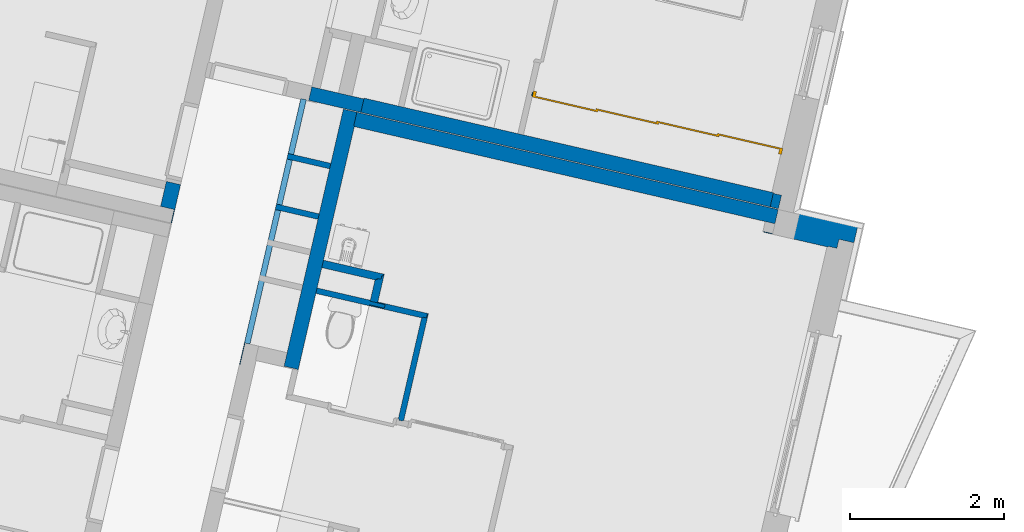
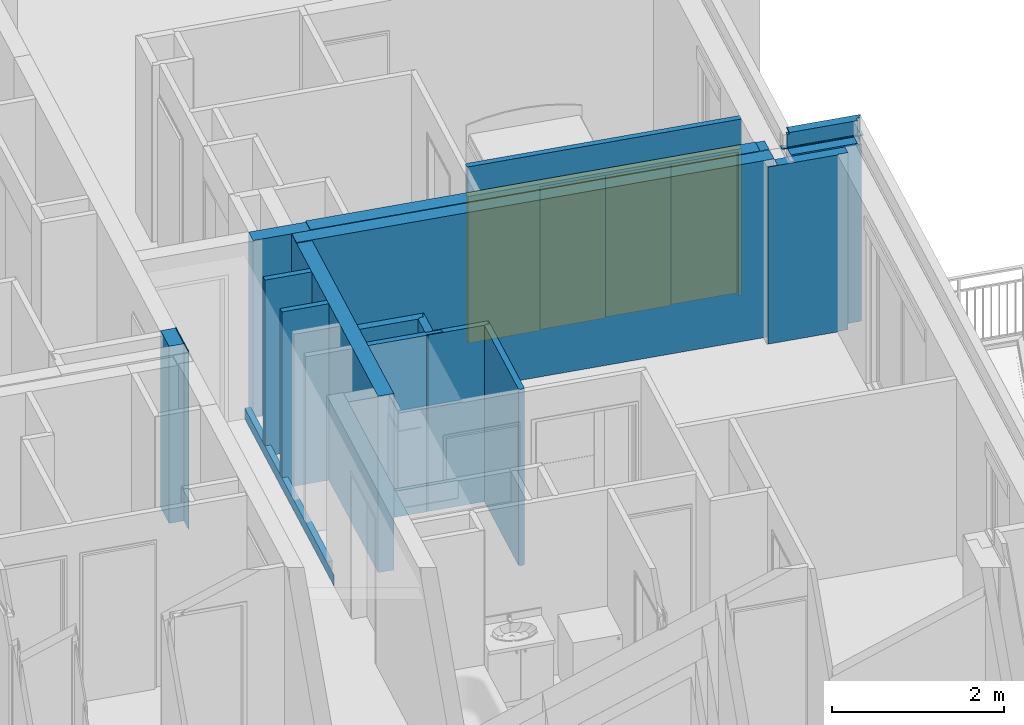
# One storey, part 29 of 62: 16 walls, 1 door, 1 opening.
"""IFC2X3 building model written with IfcOpenShell, lengths in metres."""

from ifc_helpers import new_model, entity, si_unit, converted_unit, derived_unit, money_unit, direction, frame, origin_with_axes, place, context, subcontext, project, spatial, faceted_brep, material, material_list, type_object, element, fill, save


model = new_model("IFC2X3")

# Units and contexts
model_context = context("Model", 3, precision=1e-05, world=origin_with_axes(), true_north=direction((0.0, 1.0)))
body_context = subcontext(model_context, "Body", "Model", "MODEL_VIEW")
ifc_project = project(units=[si_unit("LENGTHUNIT", "METRE"), si_unit("AREAUNIT", "SQUARE_METRE"), si_unit("VOLUMEUNIT", "CUBIC_METRE"), converted_unit("PLANEANGLEUNIT", "DEGREE", entity("IfcPlaneAngleMeasure", 0.0174532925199), si_unit("PLANEANGLEUNIT", "RADIAN"), dimensions=[0, 0, 0, 0, 0, 0, 0]), si_unit("SOLIDANGLEUNIT", "STERADIAN"), money_unit("EUR"), converted_unit("TIMEUNIT", "Year", entity("IfcTimeMeasure", 31556926.0), si_unit("TIMEUNIT", "SECOND"), dimensions=[0, 0, 1, 0, 0, 0, 0]), si_unit("MASSUNIT", "GRAM", prefix="KILO"), si_unit("THERMODYNAMICTEMPERATUREUNIT", "DEGREE_CELSIUS"), si_unit("LUMINOUSINTENSITYUNIT", "LUMEN"), si_unit("ENERGYUNIT", "JOULE", prefix="MEGA"), derived_unit("THERMALCONDUCTANCEUNIT", [(si_unit("POWERUNIT", "WATT"), 1), (si_unit("LENGTHUNIT", "METRE"), -1), (si_unit("THERMODYNAMICTEMPERATUREUNIT", "KELVIN"), -1)]), derived_unit("SPECIFICHEATCAPACITYUNIT", [(si_unit("ENERGYUNIT", "JOULE"), 1), (si_unit("MASSUNIT", "GRAM", prefix="KILO"), -1), (si_unit("THERMODYNAMICTEMPERATUREUNIT", "KELVIN"), -1)]), derived_unit("MASSDENSITYUNIT", [(si_unit("MASSUNIT", "GRAM", prefix="KILO"), 1), (si_unit("VOLUMEUNIT", "CUBIC_METRE"), -1)])], contexts=[model_context])

# Site, building, storey
site_placement = place(None, origin_with_axes())
site = spatial("IfcSite", under=ifc_project, at=site_placement, Name="Site", CompositionType="ELEMENT")
building_placement = place(site_placement, origin_with_axes())
building = spatial("IfcBuilding", under=site, at=building_placement, Name="Bâtiment", CompositionType="ELEMENT")
storey_placement = place(building_placement, frame((0.0, 0.0, 8.16), z_axis=(0.0, 0.0, 1.0), x_axis=(1.0, 0.0, 0.0)))
storey = spatial("IfcBuildingStorey", under=building, at=storey_placement, Name="R+3", CompositionType="ELEMENT", Elevation=8.16)

# Walls
ifc_material_1 = material(Name="Cloison - Carreaux de plâtre")
wall_type_1 = type_object("IfcWallType", Name="Cloison - Carreaux de plâtre 74", PredefinedType="USERDEFINED")
wall_1_placement = place(storey_placement, frame((-9.20392746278, 0.883172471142, 0.0), z_axis=(0.0, 0.0, 1.0), x_axis=(0.224876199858, 0.974387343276, 0.0)))
element("IfcWall", 1, at=wall_1_placement, inside=storey, type_object=wall_type_1, material=ifc_material_1, Name="Carreaux de plâtre 8cm", ObjectType="PARTITIONING", context=body_context, shape_type="Brep", body=[
    faceted_brep([(3.25805722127, 0.0, 0.15), (-0.29, 0.0, 0.15), (-0.29, -0.0100000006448, 0.15), (0.0, -0.0100000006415, 0.15), (0.0, -0.074, 0.15), (3.25805722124, -0.074, 0.15), (3.25805722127, 0.0, 0.0), (-0.29, 0.0, 0.0), (-0.29, -0.0100000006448, 0.0), (0.0, -0.0100000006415, 0.0), (0.0, -0.074, 0.0), (3.25805722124, -0.074, 0.0)], [[[0, 1, 2, 3, 4, 5]], [[0, 6, 7, 1]], [[1, 7, 8, 2]], [[8, 9, 3, 2]], [[3, 9, 10, 4]], [[11, 5, 4, 10]], [[5, 11, 6, 0]], [[11, 10, 9, 8, 7, 6]]]),
])
wall_2_placement = place(storey_placement, frame((-8.78745674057, 2.6877378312, 0.0), z_axis=(0.0, 0.0, 1.0), x_axis=(0.974387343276, -0.224876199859, 0.0)))
element("IfcWall", 2, at=wall_2_placement, inside=storey, type_object=wall_type_1, material=ifc_material_1, Name="Carreaux de plâtre 8cm", ObjectType="PARTITIONING", context=body_context, shape_type="Brep", body=[
    faceted_brep([(0.570000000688, 0.0, 0.0), (0.0739999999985, 0.0, 0.0), (0.0739999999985, 0.0, 0.15), (0.0, 0.0, 0.15), (0.0, 0.0, 2.5), (0.570000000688, 0.0, 2.5), (0.570000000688, -0.074, 0.0), (0.0739999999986, -0.074, 0.0), (0.0739999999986, -0.074, 0.15), (0.0, -0.074, 0.15), (0.0, -0.074, 2.5), (0.570000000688, -0.074, 2.5)], [[[0, 1, 2, 3, 4, 5]], [[0, 6, 7, 1]], [[7, 8, 2, 1]], [[8, 9, 3, 2]], [[10, 4, 3, 9]], [[10, 11, 5, 4]], [[11, 6, 0, 5]], [[10, 9, 8, 7, 6, 11]]]),
])
wall_3_placement = place(storey_placement, frame((-8.63589018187, 3.34447490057, 0.0), z_axis=(0.0, 0.0, 1.0), x_axis=(0.974387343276, -0.224876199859, 0.0)))
element("IfcWall", 3, at=wall_3_placement, inside=storey, type_object=wall_type_1, material=ifc_material_1, Name="Carreaux de plâtre 8cm", ObjectType="PARTITIONING", context=body_context, shape_type="Brep", body=[
    faceted_brep([(0.570000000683, 0.0, 0.0), (0.0739999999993, 0.0, 0.0), (0.0739999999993, 0.0, 0.15), (0.0, 0.0, 0.15), (0.0, 0.0, 2.5), (0.570000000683, 0.0, 2.5), (0.570000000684, -0.074, 0.0), (0.0739999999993, -0.074, 0.0), (0.0739999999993, -0.074, 0.15), (0.0, -0.074, 0.15), (0.0, -0.074, 2.5), (0.570000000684, -0.074, 2.5)], [[[0, 1, 2, 3, 4, 5]], [[0, 6, 7, 1]], [[7, 8, 2, 1]], [[8, 9, 3, 2]], [[10, 4, 3, 9]], [[10, 11, 5, 4]], [[11, 6, 0, 5]], [[10, 9, 8, 7, 6, 11]]]),
])
ifc_material_2 = material(Name="Finition int - Plaque de plâtre")
ifc_material_3 = material(Name="Isolation - Laine de roche")
ifc_material_list_1 = material_list([ifc_material_2, ifc_material_3, ifc_material_2])
wall_type_2 = type_object("IfcWallType", Name="3 - Cloison 72mm Placostil 74", PredefinedType="USERDEFINED")
wall_4_placement = place(storey_placement, frame((-6.81321467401, 1.26329398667, 0.0), z_axis=(0.0, 0.0, 1.0), x_axis=(-0.974387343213, 0.224876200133, 0.0)))
element("IfcWall", 4, at=wall_4_placement, inside=storey, type_object=wall_type_2, material=ifc_material_list_1, Name="Cloison Placostil 72/48", ObjectType="PARTITIONING", context=body_context, shape_type="Brep", body=[
    faceted_brep([(0.0609999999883, 0.074, 0.0), (0.760999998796, 0.074, 0.0), (0.760999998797, 0.061, 0.0), (0.0609999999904, 0.061, 0.0), (0.0609999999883, 0.074, 2.5), (0.760999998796, 0.074, 2.5), (0.760999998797, 0.061, 2.5), (0.0609999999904, 0.061, 2.5)], [[[0, 1, 2, 3]], [[4, 5, 1, 0]], [[6, 2, 1, 5]], [[3, 2, 6, 7]], [[7, 4, 0, 3]], [[7, 6, 5, 4]]]),
    faceted_brep([(0.012999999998, 0.013, 0.0), (0.573999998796, 0.013, 0.0), (0.573999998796, 0.013, 2.5), (0.012999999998, 0.013, 2.5), (0.0129999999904, 0.061, 0.0), (0.573999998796, 0.061, 0.0), (0.573999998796, 0.061, 2.5), (0.0129999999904, 0.061, 2.5)], [[[0, 1, 2, 3]], [[4, 5, 1, 0]], [[5, 6, 2, 1]], [[3, 2, 6, 7]], [[3, 7, 4, 0]], [[7, 6, 5, 4]]]),
    faceted_brep([(0.0, 0.013, 0.0), (0.686999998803, 0.013, 0.0), (0.686999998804, 0.0, 0.0), (0.0, 0.0, 0.0), (0.0, 0.013, 2.5), (0.686999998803, 0.013, 2.5), (0.686999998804, 0.0, 2.5), (0.0, 0.0, 2.5)], [[[0, 1, 2, 3]], [[4, 5, 1, 0]], [[6, 2, 1, 5]], [[3, 2, 6, 7]], [[7, 4, 0, 3]], [[7, 6, 5, 4]]]),
])

# Wall, opening, door
wall_5_placement = place(storey_placement, frame((-5.44874829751, 4.15046327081, 0.0), z_axis=(0.0, 0.0, 1.0), x_axis=(0.97438734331, -0.224876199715, 0.0)))
wall_5 = element("IfcWall", 5, at=wall_5_placement, inside=storey, type_object=wall_type_2, material=ifc_material_list_1, Name="Cloison Placostil 72/48", ObjectType="PARTITIONING", context=body_context, shape_type="Brep", body=[
    faceted_brep([(3.32492820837, -0.013, 2.08), (3.32492820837, 0.0, 2.08), (3.32492820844, 0.0, 2.5), (3.32492820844, -0.013, 2.5), (0.0, 0.0, 2.08), (0.0, -0.013, 2.08), (0.0, 0.0, 2.5), (0.0, -0.013, 2.5)], [[[0, 1, 2, 3]], [[4, 1, 0, 5]], [[1, 4, 6, 2]], [[3, 2, 6, 7]], [[5, 0, 3, 7]], [[4, 5, 7, 6]]]),
    faceted_brep([(3.32492820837, -0.061, 2.08), (3.32492820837, -0.013, 2.08), (3.32492820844, -0.013, 2.5), (3.32492820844, -0.061, 2.5), (0.0, -0.013, 2.08), (0.0, -0.061, 2.08), (0.0, -0.013, 0.0), (-0.0130000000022, -0.013, 0.0), (-0.0130000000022, -0.013, 2.5), (-0.0130000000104, -0.061, 2.5), (-0.0130000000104, -0.061, 0.0), (0.0, -0.061, 0.0)], [[[0, 1, 2, 3]], [[4, 1, 0, 5]], [[4, 6, 7, 8, 2, 1]], [[3, 2, 8, 9]], [[5, 0, 3, 9, 10, 11]], [[6, 4, 5, 11]], [[6, 11, 10, 7]], [[9, 8, 7, 10]]]),
    faceted_brep([(3.32492820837, -0.074, 2.08), (3.32492820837, -0.061, 2.08), (3.32492820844, -0.061, 2.5), (3.32492820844, -0.074, 2.5), (0.0, -0.061, 2.08), (0.0, -0.074, 2.08), (0.0, -0.061, 2.5), (0.0, -0.074, 2.5)], [[[0, 1, 2, 3]], [[4, 1, 0, 5]], [[1, 4, 6, 2]], [[3, 2, 6, 7]], [[5, 0, 3, 7]], [[4, 5, 7, 6]]]),
])
opening_placement = place(wall_5_placement, frame((1.66246410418, 0.0, 0.0), z_axis=(0.0, 0.0, 1.0), x_axis=(1.0, 0.0, 0.0)))
opening = element("IfcOpeningElement", 6, at=opening_placement, cuts=wall_5, Name="Por-002", context=body_context, shape_type="Brep", body=[
    faceted_brep([(-1.66246410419, 0.074, 0.0), (1.66246410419, 0.074, 0.0), (1.66246410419, -0.074, 0.0), (-1.66246410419, -0.074, 0.0), (-1.66246410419, 0.074, 2.08), (1.66246410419, 0.074, 2.08), (1.66246410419, -0.074, 2.08), (-1.66246410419, -0.074, 2.08)], [[[0, 1, 2, 3]], [[0, 4, 5, 1]], [[1, 5, 6, 2]], [[3, 2, 6, 7]], [[4, 0, 3, 7]], [[5, 4, 7, 6]]]),
])
door_style = type_object("IfcDoorStyle", Name="Porte int générique 2019", ConstructionType="NOTDEFINED", OperationType="USERDEFINED", ParameterTakesPrecedence=False, Sizeable=False)
door_placement = place(opening_placement, frame((1.62246410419, 0.0, 0.0), z_axis=(0.0, 0.0, 1.0), x_axis=(-1.0, 0.0, 0.0)))
door = element("IfcDoor", 7, at=door_placement, inside=storey, type_object=door_style, Name="Por-002", ObjectType="DOOR", OverallHeight=2.04, OverallWidth=3.24493, context=body_context, shape_type="Brep", body=[
    faceted_brep([(3.28492820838, 0.074, 0.0), (3.24492820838, 0.074, 0.0), (3.24492820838, 0.074, 2.04), (0.0, 0.074, 2.04), (0.0, 0.074, 0.0), (-0.04, 0.074, 0.0), (-0.04, 0.074, 2.08), (3.28492820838, 0.074, 2.08), (3.28492820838, -0.006, 0.0), (3.24492820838, -0.006, 0.0), (3.24492820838, -0.006, 2.04), (0.0, -0.006, 2.04), (0.0, -0.006, 0.0), (-0.04, -0.006, 0.0), (-0.04, -0.006, 2.08), (3.28492820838, -0.006, 2.08)], [[[0, 1, 2, 3, 4, 5, 6, 7]], [[0, 8, 9, 1]], [[1, 9, 10, 2]], [[2, 10, 11, 3]], [[3, 11, 12, 4]], [[5, 4, 12, 13]], [[14, 6, 5, 13]], [[15, 7, 6, 14]], [[8, 0, 7, 15]], [[9, 8, 15, 14, 13, 12, 11, 10]]]),
    faceted_brep([(3.24492820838, 0.074, 0.0), (3.24492820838, 0.054, 0.0), (2.41119615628, 0.054, 0.0), (2.41119615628, 0.074, 0.0), (3.24492820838, 0.074, 2.04), (3.24492820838, 0.054, 2.04), (2.41119615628, 0.054, 2.04), (2.41119615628, 0.074, 2.04)], [[[0, 1, 2, 3]], [[4, 5, 1, 0]], [[1, 5, 6, 2]], [[3, 2, 6, 7]], [[0, 3, 7, 4]], [[7, 6, 5, 4]]]),
    faceted_brep([(2.44119615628, 0.054, 0.0), (2.44119615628, 0.034, 0.0), (1.60746410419, 0.034, 0.0), (1.60746410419, 0.054, 0.0), (2.44119615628, 0.054, 2.04), (2.44119615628, 0.034, 2.04), (1.60746410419, 0.034, 2.04), (1.60746410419, 0.054, 2.04)], [[[0, 1, 2, 3]], [[4, 5, 1, 0]], [[1, 5, 6, 2]], [[3, 2, 6, 7]], [[0, 3, 7, 4]], [[7, 6, 5, 4]]]),
    faceted_brep([(1.63746410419, 0.034, 0.0), (1.63746410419, 0.014, 0.0), (0.803732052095, 0.014, 0.0), (0.803732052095, 0.034, 0.0), (1.63746410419, 0.034, 2.04), (1.63746410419, 0.014, 2.04), (0.803732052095, 0.014, 2.04), (0.803732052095, 0.034, 2.04)], [[[0, 1, 2, 3]], [[4, 5, 1, 0]], [[1, 5, 6, 2]], [[3, 2, 6, 7]], [[0, 3, 7, 4]], [[7, 6, 5, 4]]]),
    faceted_brep([(0.833732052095, 0.014, 0.0), (0.833732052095, -0.006, 0.0), (0.0, -0.006, 0.0), (0.0, 0.014, 0.0), (0.833732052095, 0.014, 2.04), (0.833732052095, -0.006, 2.04), (0.0, -0.006, 2.04), (0.0, 0.014, 2.04)], [[[0, 1, 2, 3]], [[4, 5, 1, 0]], [[1, 5, 6, 2]], [[3, 2, 6, 7]], [[0, 3, 7, 4]], [[7, 6, 5, 4]]]),
])
fill(opening, door)

# Walls
wall_6_placement = place(storey_placement, frame((-7.1500792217, -0.196338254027, 0.0), z_axis=(0.0, 0.0, 1.0), x_axis=(0.224876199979, 0.974387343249, 0.0)))
element("IfcWall", 8, at=wall_6_placement, inside=storey, type_object=wall_type_2, material=ifc_material_list_1, Name="Cloison Placostil 72/48", ObjectType="PARTITIONING", context=body_context, shape_type="Brep", body=[
    faceted_brep([(1.42400000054, 0.074, 0.0), (1.42400000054, 0.061, 0.0), (0.0740000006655, 0.061, 0.0), (0.0740000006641, 0.074, 0.0), (1.42400000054, 0.074, 2.5), (1.42400000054, 0.061, 2.5), (0.0740000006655, 0.061, 2.5), (0.0740000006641, 0.074, 2.5)], [[[0, 1, 2, 3]], [[1, 0, 4, 5]], [[1, 5, 6, 2]], [[7, 3, 2, 6]], [[4, 0, 3, 7]], [[5, 4, 7, 6]]]),
    faceted_brep([(1.43700000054, 0.061, 0.0), (1.43700000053, 0.013, 0.0), (0.0610000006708, 0.013, 0.0), (0.0610000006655, 0.061, 0.0), (1.43700000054, 0.061, 2.5), (1.43700000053, 0.013, 2.5), (0.0610000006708, 0.013, 2.5), (0.0610000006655, 0.061, 2.5)], [[[0, 1, 2, 3]], [[1, 0, 4, 5]], [[1, 5, 6, 2]], [[7, 3, 2, 6]], [[4, 0, 3, 7]], [[5, 4, 7, 6]]]),
    faceted_brep([(1.48500000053, 0.013, 0.0), (1.48500000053, 0.0, 0.0), (0.0740000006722, 0.0, 0.0), (0.0740000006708, 0.013, 0.0), (1.48500000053, 0.013, 2.5), (1.48500000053, 0.0, 2.5), (0.0740000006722, 0.0, 2.5), (0.0740000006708, 0.013, 2.5)], [[[0, 1, 2, 3]], [[1, 0, 4, 5]], [[1, 5, 6, 2]], [[7, 3, 2, 6]], [[4, 0, 3, 7]], [[5, 4, 7, 6]]]),
])
wall_7_placement = place(storey_placement, frame((-7.46995174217, 1.41486054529, 0.0), z_axis=(0.0, 0.0, 1.0), x_axis=(-0.974387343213, 0.224876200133, 0.0)))
element("IfcWall", 9, at=wall_7_placement, inside=storey, type_object=wall_type_2, material=ifc_material_list_1, Name="Cloison Placostil 72/48", ObjectType="PARTITIONING", context=body_context, shape_type="Brep", body=[
    faceted_brep([(0.810000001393, 0.074, 2.5), (0.0999999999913, 0.074, 2.5), (0.0999999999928, 0.061, 2.5), (0.810000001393, 0.061, 2.5), (0.810000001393, 0.074, 0.0), (0.0999999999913, 0.074, 0.0), (0.0999999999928, 0.061, 0.0), (0.810000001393, 0.061, 0.0)], [[[0, 1, 2, 3]], [[4, 5, 1, 0]], [[5, 6, 2, 1]], [[3, 2, 6, 7]], [[0, 3, 7, 4]], [[7, 6, 5, 4]]]),
    faceted_brep([(0.810000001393, 0.013, 0.0), (-0.100000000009, 0.013, 0.0), (-0.100000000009, 0.061, 0.0), (0.810000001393, 0.061, 0.0), (0.810000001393, 0.013, 2.5), (-0.100000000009, 0.013, 2.5), (-0.100000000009, 0.061, 2.5), (0.810000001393, 0.061, 2.5)], [[[0, 1, 2, 3]], [[4, 5, 1, 0]], [[1, 5, 6, 2]], [[3, 2, 6, 7]], [[7, 4, 0, 3]], [[7, 6, 5, 4]]]),
    faceted_brep([(0.810000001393, 0.013, 2.5), (0.0999999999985, 0.013, 2.5), (0.1, 0.0, 2.5), (0.810000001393, 0.0, 2.5), (0.810000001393, 0.013, 0.0), (0.0999999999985, 0.013, 0.0), (0.1, 0.0, 0.0), (0.810000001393, 0.0, 0.0)], [[[0, 1, 2, 3]], [[4, 5, 1, 0]], [[5, 6, 2, 1]], [[3, 2, 6, 7]], [[0, 3, 7, 4]], [[7, 6, 5, 4]]]),
])
ifc_material_4 = material(Name="Finition int - Enduit plâtre")
ifc_material_5 = material(Name="Béton")
ifc_material_list_2 = material_list([ifc_material_4, ifc_material_5])
wall_type_3 = type_object("IfcWallType", Name="2 - Murs Béton 18 + Enduit 1 Face 190", PredefinedType="USERDEFINED")
wall_8_placement = place(storey_placement, frame((-7.91811591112, 3.91985888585, 0.0), z_axis=(0.0, 0.0, 1.0), x_axis=(-0.224876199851, -0.974387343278, 0.0)))
element("IfcWall", 10, at=wall_8_placement, inside=storey, type_object=wall_type_3, material=ifc_material_list_2, Name="M_Ext-008", ObjectType="SOLIDWALL", context=body_context, shape_type="Brep", body=[
    faceted_brep([(3.43805722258, 0.19, 0.0), (3.4380572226, 0.18, 0.0), (0.180000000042, 0.18, 0.0), (0.180000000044, 0.19, 0.0), (3.43805722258, 0.19, 2.5), (3.4380572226, 0.18, 2.5), (0.180000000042, 0.18, 2.5), (0.180000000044, 0.19, 2.5)], [[[0, 1, 2, 3]], [[1, 0, 4, 5]], [[1, 5, 6, 2]], [[7, 3, 2, 6]], [[4, 0, 3, 7]], [[5, 4, 7, 6]]]),
    faceted_brep([(3.4280572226, 0.18, 0.0), (3.4280572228, 0.0, 0.0), (0.0, 0.0, 0.0), (0.0, 0.18, 0.0), (3.4280572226, 0.18, 2.5), (3.4280572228, 0.0, 2.5), (0.0, 0.0, 2.5), (0.0, 0.18, 2.5)], [[[0, 1, 2, 3]], [[1, 0, 4, 5]], [[1, 5, 6, 2]], [[7, 3, 2, 6]], [[4, 0, 3, 7]], [[5, 4, 7, 6]]]),
])
wall_9_placement = place(storey_placement, frame((-10.0430092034, 2.94119320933, 0.0), z_axis=(0.0, 0.0, 1.0), x_axis=(-0.22487619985, -0.974387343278, 0.0)))
element("IfcWall", 11, at=wall_9_placement, inside=storey, type_object=wall_type_3, material=ifc_material_list_2, Name="M_Ext-009", ObjectType="SOLIDWALL", context=body_context, shape_type="Brep", body=[
    faceted_brep([(0.51400000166, 0.01, 0.0), (0.514000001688, 0.0, 0.0), (0.0, 0.0, 0.0), (0.0, 0.01, 0.0), (0.51400000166, 0.01, 2.52), (0.514000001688, 0.0, 2.52), (0.0, 0.0, 2.52), (0.0, 0.01, 2.52)], [[[0, 1, 2, 3]], [[1, 0, 4, 5]], [[1, 5, 6, 2]], [[7, 3, 2, 6]], [[4, 0, 3, 7]], [[5, 4, 7, 6]]]),
    faceted_brep([(0.0, -0.18, 2.51), (0.0, 2.21753104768e-09, 2.51), (0.0, 0.0, 0.0), (0.0, -0.18, 0.0), (0.334000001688, 9.31493104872e-10, 2.51), (0.334000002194, -0.18, 2.51), (0.334000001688, 0.0, 0.0), (0.334000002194, -0.18, 0.0)], [[[0, 1, 2, 3]], [[4, 1, 0, 5]], [[1, 4, 6, 2]], [[6, 7, 3, 2]], [[5, 0, 3, 7]], [[4, 5, 7, 6]]]),
])
ifc_material_list_3 = material_list([ifc_material_5, ifc_material_4])
wall_10_placement = place(storey_placement, frame((-7.91811591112, 3.91985888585, 0.0), z_axis=(0.0, 0.0, 1.0), x_axis=(0.974387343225, -0.224876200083, 0.0)))
element("IfcWall", 12, at=wall_10_placement, inside=storey, type_object=wall_type_3, material=ifc_material_list_3, Name="M_Ext-009", ObjectType="SOLIDWALL", context=body_context, shape_type="Brep", body=[
    faceted_brep([(0.18, 0.0, 0.0), (0.18, 0.0, 2.5), (0.0, 0.0, 2.5), (0.0, 0.0, 2.5099999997), (5.79919131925, 0.0, 2.51), (5.79919131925, 0.0, 0.0), (0.180000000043, -0.18, 2.5), (0.180000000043, -0.18, 0.0), (0.0, -0.18, 2.5), (0.0, -0.18, 2.5099999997), (5.79919131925, -0.18, 2.51), (5.79919131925, -0.18, 0.0)], [[[0, 1, 2, 3, 4, 5]], [[6, 1, 0, 7]], [[8, 2, 1, 6]], [[3, 2, 8, 9]], [[10, 4, 3, 9]], [[11, 5, 4, 10]], [[11, 7, 0, 5]], [[8, 6, 7, 11, 10, 9]]]),
    faceted_brep([(0.190000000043, -0.18, 0.0), (0.190000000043, -0.18, 2.5), (0.0, -0.18, 2.5), (0.0, -0.18, 2.5099999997), (5.79919131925, -0.18, 2.51), (5.79919131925, -0.18, 0.0), (0.190000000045, -0.19, 2.5), (0.190000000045, -0.19, 0.0), (0.0, -0.19, 2.5), (0.0, -0.19, 2.5099999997), (5.79919131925, -0.19, 2.51), (5.79919131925, -0.19, 0.0)], [[[0, 1, 2, 3, 4, 5]], [[6, 1, 0, 7]], [[2, 1, 6, 8]], [[3, 2, 8, 9]], [[10, 4, 3, 9]], [[11, 5, 4, 10]], [[11, 7, 0, 5]], [[8, 6, 7, 11, 10, 9]]]),
])
wall_11_placement = place(storey_placement, frame((-7.69175806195, 3.87788123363, 0.0), z_axis=(0.0, 0.0, 1.0), x_axis=(0.97438734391, -0.224876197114, 0.0)))
element("IfcWall", 13, at=wall_11_placement, inside=storey, type_object=wall_type_3, material=ifc_material_list_2, Name="M_Ext-009", ObjectType="SOLIDWALL", context=body_context, shape_type="Brep", body=[
    faceted_brep([(0.0, 0.19, 0.0), (5.4591913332, 0.19, 0.0), (5.4591913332, 0.18, 0.0), (0.0, 0.18, 0.0), (0.0, 0.19, 2.51), (5.4591913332, 0.19, 2.51), (5.4591913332, 0.18, 2.51), (0.0, 0.18, 2.51)], [[[0, 1, 2, 3]], [[4, 5, 1, 0]], [[2, 1, 5, 6]], [[3, 2, 6, 7]], [[4, 0, 3, 7]], [[7, 6, 5, 4]]]),
    faceted_brep([(0.0, 0.18, 0.0), (5.4591913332, 0.18, 0.0), (5.4591913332, 0.0, 0.0), (0.0, 0.0, 0.0), (0.0, 0.18, 2.51), (5.4591913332, 0.18, 2.51), (5.4591913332, 0.0, 2.51), (0.0, 0.0, 2.51)], [[[0, 1, 2, 3]], [[4, 5, 1, 0]], [[2, 1, 5, 6]], [[3, 2, 6, 7]], [[4, 0, 3, 7]], [[7, 6, 5, 4]]]),
])
wall_type_4 = type_object("IfcWallType", Name="Béton 180", PredefinedType="USERDEFINED")
wall_12_placement = place(storey_placement, frame((-8.26080027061, 4.00920893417, 0.0), z_axis=(0.0, 0.0, 1.0), x_axis=(0.974387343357, -0.224876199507, 0.0)))
element("IfcWall", 14, at=wall_12_placement, inside=storey, type_object=wall_type_4, material=ifc_material_5, Name="M_Ext-009", ObjectType="SOLIDWALL", context=body_context, shape_type="Brep", body=[
    faceted_brep([(-0.111, 0.0, 0.0), (-0.110999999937, 0.18, 0.0), (0.584000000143, 0.18, 0.0), (0.584000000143, 0.0, 0.0), (-0.111, 0.0, 2.5), (-0.110999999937, 0.18, 2.5), (0.584000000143, 0.18, 2.5), (0.584000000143, 0.0, 2.5)], [[[0, 1, 2, 3]], [[4, 5, 1, 0]], [[1, 5, 6, 2]], [[7, 3, 2, 6]], [[4, 0, 3, 7]], [[5, 4, 7, 6]]]),
])
wall_13_placement = place(storey_placement, frame((-2.3723911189, 2.6502390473, 0.0), z_axis=(0.0, 0.0, 1.0), x_axis=(0.97438734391, -0.224876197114, 0.0)))
element("IfcWall", 15, at=wall_13_placement, inside=storey, type_object=wall_type_4, material=ifc_material_5, Name="M_Ext-009", ObjectType="SOLIDWALL", context=body_context, shape_type="Brep", body=[
    faceted_brep([(0.0, 0.0, 0.0), (0.0, 0.18, 0.0), (0.109999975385, 0.18, 0.0), (0.109999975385, 0.0, 0.0), (0.0, 0.0, 2.51), (0.0, 0.18, 2.51), (0.109999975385, 0.18, 2.51), (0.109999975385, 0.0, 2.51)], [[[0, 1, 2, 3]], [[4, 5, 1, 0]], [[1, 5, 6, 2]], [[7, 3, 2, 6]], [[4, 0, 3, 7]], [[5, 4, 7, 6]]]),
])
ifc_material_list_4 = material_list([ifc_material_2, ifc_material_2, ifc_material_3, ifc_material_2, ifc_material_2])
wall_type_5 = type_object("IfcWallType", Name="3 - Cloison Gaine Technique 98mm 100", PredefinedType="USERDEFINED")
wall_14_placement = place(storey_placement, frame((-7.3867346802, 1.77543961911, 0.0), z_axis=(0.0, 0.0, 1.0), x_axis=(-0.224876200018, -0.97438734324, 0.0)))
element("IfcWall", 16, at=wall_14_placement, inside=storey, type_object=wall_type_5, material=ifc_material_list_4, Name="Cloison 98 isolée", ObjectType="PARTITIONING", context=body_context, shape_type="Brep", body=[
    faceted_brep([(0.0130000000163, -0.013, 2.5), (0.370057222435, -0.013, 2.5), (0.370057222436, 0.0, 2.5), (0.013, 0.0, 2.5), (0.0130000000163, -0.013, 0.0), (0.370057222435, -0.013, 0.0), (0.370057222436, 0.0, 0.0), (0.013, 0.0, 0.0)], [[[0, 1, 2, 3]], [[4, 5, 1, 0]], [[6, 2, 1, 5]], [[3, 2, 6, 7]], [[7, 4, 0, 3]], [[7, 6, 5, 4]]]),
    faceted_brep([(0.0260000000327, -0.026, 2.5), (0.383057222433, -0.026, 2.5), (0.383057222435, -0.013, 2.5), (0.0260000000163, -0.013, 2.5), (0.0260000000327, -0.026, 0.0), (0.383057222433, -0.026, 0.0), (0.383057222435, -0.013, 0.0), (0.0260000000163, -0.013, 0.0)], [[[0, 1, 2, 3]], [[4, 5, 1, 0]], [[6, 2, 1, 5]], [[3, 2, 6, 7]], [[7, 4, 0, 3]], [[7, 6, 5, 4]]]),
    faceted_brep([(0.0740000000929, -0.074, 2.5), (0.383057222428, -0.074, 2.5), (0.383057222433, -0.026, 2.5), (0.0740000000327, -0.026, 2.5), (0.0740000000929, -0.074, 0.0), (0.383057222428, -0.074, 0.0), (0.383057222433, -0.026, 0.0), (0.0740000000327, -0.026, 0.0)], [[[0, 1, 2, 3]], [[4, 5, 1, 0]], [[6, 2, 1, 5]], [[3, 2, 6, 7]], [[7, 4, 0, 3]], [[7, 6, 5, 4]]]),
    faceted_brep([(0.0870000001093, -0.087, 2.5), (0.383057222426, -0.087, 2.5), (0.383057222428, -0.074, 2.5), (0.0870000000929, -0.074, 2.5), (0.0870000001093, -0.087, 0.0), (0.383057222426, -0.087, 0.0), (0.383057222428, -0.074, 0.0), (0.0870000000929, -0.074, 0.0)], [[[0, 1, 2, 3]], [[4, 5, 1, 0]], [[5, 6, 2, 1]], [[3, 2, 6, 7]], [[7, 4, 0, 3]], [[7, 6, 5, 4]]]),
    faceted_brep([(0.444057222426, -0.087, 0.0), (0.431057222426, -0.087, 0.0), (0.431057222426, -0.087, 2.5), (0.444057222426, -0.087, 2.5), (0.444057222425, -0.1, 0.0), (0.431057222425, -0.1, 0.0), (0.431057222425, -0.1, 2.5), (0.444057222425, -0.1, 2.5)], [[[0, 1, 2, 3]], [[4, 5, 1, 0]], [[5, 6, 2, 1]], [[3, 2, 6, 7]], [[0, 3, 7, 4]], [[7, 6, 5, 4]]]),
    faceted_brep([(0.100000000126, -0.1, 2.5), (0.383057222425, -0.1, 2.5), (0.383057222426, -0.087, 2.5), (0.100000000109, -0.087, 2.5), (0.100000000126, -0.1, 0.0), (0.383057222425, -0.1, 0.0), (0.383057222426, -0.087, 0.0), (0.100000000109, -0.087, 0.0)], [[[0, 1, 2, 3]], [[4, 5, 1, 0]], [[5, 6, 2, 1]], [[3, 2, 6, 7]], [[7, 4, 0, 3]], [[7, 6, 5, 4]]]),
])
wall_15_placement = place(storey_placement, frame((-8.17598842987, 1.95758934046, 0.0), z_axis=(0.0, 0.0, 1.0), x_axis=(0.974387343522, -0.224876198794, 0.0)))
element("IfcWall", 17, at=wall_15_placement, inside=storey, type_object=wall_type_5, material=ifc_material_list_4, Name="Cloison 98 isolée", ObjectType="PARTITIONING", context=body_context, shape_type="Brep", body=[
    faceted_brep([(0.81000000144, -0.013, 2.5), (0.810000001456, 0.0, 2.5), (0.0, 0.0, 2.5), (0.0, -0.013, 2.5), (0.81000000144, -0.013, 0.0), (0.810000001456, 0.0, 0.0), (0.0, 0.0, 0.0), (0.0, -0.013, 0.0)], [[[0, 1, 2, 3]], [[1, 0, 4, 5]], [[1, 5, 6, 2]], [[7, 3, 2, 6]], [[4, 0, 3, 7]], [[5, 4, 7, 6]]]),
    faceted_brep([(0.797000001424, -0.026, 2.5), (0.79700000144, -0.013, 2.5), (0.0, -0.013, 2.5), (0.0, -0.026, 2.5), (0.797000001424, -0.026, 0.0), (0.79700000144, -0.013, 0.0), (0.0, -0.013, 0.0), (0.0, -0.026, 0.0)], [[[0, 1, 2, 3]], [[1, 0, 4, 5]], [[1, 5, 6, 2]], [[7, 3, 2, 6]], [[4, 0, 3, 7]], [[5, 4, 7, 6]]]),
    faceted_brep([(0.784000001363, -0.074, 2.5), (0.784000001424, -0.026, 2.5), (0.0, -0.026, 2.5), (0.0, -0.074, 2.5), (0.784000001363, -0.074, 0.0), (0.784000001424, -0.026, 0.0), (0.0, -0.026, 0.0), (0.0, -0.074, 0.0)], [[[0, 1, 2, 3]], [[1, 0, 4, 5]], [[1, 5, 6, 2]], [[7, 3, 2, 6]], [[4, 0, 3, 7]], [[5, 4, 7, 6]]]),
    faceted_brep([(0.736000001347, -0.087, 2.5), (0.736000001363, -0.074, 2.5), (0.0, -0.074, 2.5), (0.0, -0.087, 2.5), (0.736000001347, -0.087, 0.0), (0.736000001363, -0.074, 0.0), (0.0, -0.074, 0.0), (0.0, -0.087, 0.0)], [[[0, 1, 2, 3]], [[1, 0, 4, 5]], [[1, 5, 6, 2]], [[7, 3, 2, 6]], [[4, 0, 3, 7]], [[5, 4, 7, 6]]]),
    faceted_brep([(0.723000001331, -0.1, 2.5), (0.723000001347, -0.087, 2.5), (0.0, -0.087, 2.5), (0.0, -0.1, 2.5), (0.723000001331, -0.1, 0.0), (0.723000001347, -0.087, 0.0), (0.0, -0.087, 0.0), (0.0, -0.1, 0.0)], [[[0, 1, 2, 3]], [[1, 0, 4, 5]], [[1, 5, 6, 2]], [[7, 3, 2, 6]], [[4, 0, 3, 7]], [[5, 4, 7, 6]]]),
])
ifc_material_6 = material(Name="Finition ext - Bardage bois")
ifc_material_7 = material(Name="Bois - Lattage")
ifc_material_8 = material(Name="Béton cellulaire")
ifc_material_9 = material(Name="Mortier")
ifc_material_10 = material(Name="Bloc ELITHERM")
ifc_material_11 = material(Name="Isolation - Polystyrène extrudé")
ifc_material_list_5 = material_list([ifc_material_6, ifc_material_7, ifc_material_8, ifc_material_9, ifc_material_10, ifc_material_11, ifc_material_2])
wall_type_6 = type_object("IfcWallType", Name="Mur ALKERN + planelle 21 BARDAGE courant 395 x 2740", PredefinedType="USERDEFINED")
wall_16_placement = place(storey_placement, frame((-2.03660192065, 2.5932688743, 0.0), z_axis=(0.0, 0.0, 1.0), x_axis=(0.974387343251, -0.22487619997, 0.0)))
element("IfcWall", 18, at=wall_16_placement, inside=storey, type_object=wall_type_6, material=ifc_material_list_5, Name="Mue bloc ALKERN isolé", ObjectType="SOLIDWALL", context=body_context, shape_type="Brep", body=[
    faceted_brep([(0.034999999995, 0.0349999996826, 2.72), (0.0, 0.0349999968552, 2.72), (0.0, 0.0349999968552, 2.74000000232), (0.890808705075, 0.0349999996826, 2.74), (0.890808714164, 0.0349999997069, 2.52999999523), (0.777808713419, 0.0349999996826, 2.52999999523), (0.777808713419, 0.0349999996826, 2.5200000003), (0.757808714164, 0.0349999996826, 2.52), (0.757808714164, 0.0349999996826, 2.51), (0.890808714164, 0.0349999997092, 2.50999999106), (0.890808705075, 0.035, 0.0), (0.034999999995, 0.035, 0.0), (0.0349999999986, 0.01, 2.72), (0.0, 0.01, 2.72), (0.0, 0.01, 2.74000000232), (0.890808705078, 0.01, 2.74), (0.890808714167, 0.01, 2.52999999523), (0.777808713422, 0.01, 2.52999999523), (0.777808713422, 0.01, 2.5200000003), (0.757808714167, 0.01, 2.52), (0.757808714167, 0.01, 2.51), (0.890808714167, 0.01, 2.50999999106), (0.890808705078, 0.01, 0.0), (0.0349999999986, 0.01, 0.0)], [[[0, 1, 2, 3, 4, 5, 6, 7, 8, 9, 10, 11]], [[1, 0, 12, 13]], [[2, 1, 13, 14]], [[2, 14, 15, 3]], [[15, 16, 4, 3]], [[16, 17, 5, 4]], [[18, 6, 5, 17]], [[7, 6, 18, 19]], [[20, 8, 7, 19]], [[9, 8, 20, 21]], [[10, 9, 21, 22]], [[22, 23, 11, 10]], [[23, 12, 0, 11]], [[13, 12, 23, 22, 21, 20, 19, 18, 17, 16, 15, 14]]]),
    faceted_brep([(0.0, 0.00999998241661, 2.74000000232), (0.865808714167, 0.00999998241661, 2.74), (0.865808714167, 0.00999998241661, 2.53999999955), (0.890808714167, 0.00999998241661, 2.53999999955), (0.890808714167, 0.00999998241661, 2.52999999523), (0.777808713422, 0.00999998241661, 2.52999999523), (0.777808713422, 0.00999998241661, 2.5200000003), (0.757808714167, 0.00999998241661, 2.52), (0.757808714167, 0.00999998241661, 2.51), (0.865808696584, 0.00999998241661, 2.50999999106), (0.865808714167, 0.00999998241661, 0.0), (0.00999999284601, 0.00999998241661, 0.0), (0.00999999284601, 0.00999998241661, 2.72), (0.0, 0.00999998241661, 2.72), (0.0, -0.030000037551, 2.74000000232), (0.865808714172, -0.030000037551, 2.74), (0.865808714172, -0.030000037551, 2.53999999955), (0.890808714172, -0.030000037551, 2.53999999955), (0.890808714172, -0.030000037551, 2.52999999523), (0.777808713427, -0.030000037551, 2.52999999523), (0.777808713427, -0.030000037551, 2.5200000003), (0.757808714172, -0.030000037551, 2.52), (0.757808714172, -0.030000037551, 2.51), (0.865808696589, -0.030000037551, 2.50999999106), (0.865808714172, -0.030000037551, 0.0), (0.00999999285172, -0.030000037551, 0.0), (0.00999999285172, -0.030000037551, 2.72), (0.0, -0.030000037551, 2.72)], [[[0, 1, 2, 3, 4, 5, 6, 7, 8, 9, 10, 11, 12, 13]], [[14, 15, 1, 0]], [[16, 2, 1, 15]], [[16, 17, 3, 2]], [[4, 3, 17, 18]], [[18, 19, 5, 4]], [[20, 6, 5, 19]], [[7, 6, 20, 21]], [[22, 8, 7, 21]], [[9, 8, 22, 23]], [[10, 9, 23, 24]], [[11, 10, 24, 25]], [[25, 26, 12, 11]], [[27, 13, 12, 26]], [[0, 13, 27, 14]], [[17, 16, 15, 14, 27, 26, 25, 24, 23, 22, 21, 20, 19, 18]]]),
    faceted_brep([(0.825808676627, -0.0779999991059, 2.74), (0.825808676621, -0.03, 2.74), (0.0, -0.03, 2.74000000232), (0.0, -0.0779999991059, 2.74000000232), (0.825808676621, -0.03, 2.53999999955), (0.825808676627, -0.0779999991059, 2.53999999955), (-0.0299999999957, -0.03, 2.53999999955), (-0.0299999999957, -0.03, 2.72), (0.0, -0.03, 2.72), (0.0, -0.0779999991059, 2.72), (-0.0299999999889, -0.0779999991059, 2.72), (-0.0299999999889, -0.0779999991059, 2.53999999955)], [[[0, 1, 2, 3]], [[4, 1, 0, 5]], [[1, 4, 6, 7, 8, 2]], [[9, 3, 2, 8]], [[5, 0, 3, 9, 10, 11]], [[4, 5, 11, 6]], [[10, 7, 6, 11]], [[7, 10, 9, 8]]]),
    faceted_brep([(0.890808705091, -0.098, 2.54), (0.890808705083, -0.03, 2.54), (-0.0979999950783, -0.03, 2.54), (-0.0979999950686, -0.098, 2.54), (0.890808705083, -0.03, 2.53), (0.890808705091, -0.098, 2.53), (-0.0979999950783, -0.03, 2.53), (-0.0979999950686, -0.098, 2.53)], [[[0, 1, 2, 3]], [[4, 1, 0, 5]], [[1, 4, 6, 2]], [[3, 2, 6, 7]], [[5, 0, 3, 7]], [[4, 5, 7, 6]]]),
    faceted_brep([(0.777808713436, -0.0980000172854, 2.52999999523), (0.777808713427, -0.03, 2.52999999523), (-0.0299999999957, -0.03, 2.52999999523), (-0.029999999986, -0.0980000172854, 2.52999999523), (0.777808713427, -0.03, 2.5200000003), (0.777808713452, -0.229999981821, 2.52999999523), (0.777808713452, -0.229999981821, 2.5200000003), (0.757808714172, -0.03, 2.52), (0.757808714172, -0.03, 2.51), (0.825808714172, -0.03, 2.51), (0.825808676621, -0.03, 0.0), (-0.0299999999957, -0.03, 0.0), (-0.0299999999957, -0.03, 2.51), (-0.0299999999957, -0.03, 2.51999999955), (-0.0299999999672, -0.229999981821, 2.51999999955), (-0.0299999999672, -0.229999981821, 2.52999999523), (-0.0299999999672, -0.229999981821, 2.51), (-0.0299999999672, -0.229999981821, 0.0), (0.825808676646, -0.229999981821, 0.0), (0.825808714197, -0.229999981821, 2.51), (0.757808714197, -0.229999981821, 2.51), (0.757808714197, -0.229999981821, 2.52)], [[[0, 1, 2, 3]], [[4, 1, 0, 5, 6]], [[1, 4, 7, 8, 9, 10, 11, 12, 13, 2]], [[3, 2, 13, 14, 15]], [[5, 0, 3, 15]], [[6, 5, 15, 14, 16, 17, 18, 19, 20, 21]], [[4, 6, 21, 7]], [[8, 7, 21, 20]], [[19, 9, 8, 20]], [[9, 19, 18, 10]], [[10, 18, 17, 11]], [[16, 12, 11, 17]], [[14, 13, 12, 16]]]),
    faceted_brep([(-0.0299999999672, -0.22999998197, 2.50999999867), (0.625808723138, -0.22999998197, 2.50999999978), (0.625808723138, -0.22999998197, 0.0), (-0.230000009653, -0.22999998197, 0.0), (-0.230000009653, -0.22999998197, 2.51), (-0.0979999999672, -0.22999998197, 2.51), (0.625808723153, -0.350000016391, 2.51), (-0.0299999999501, -0.350000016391, 2.51), (0.625808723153, -0.350000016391, 0.0), (-0.230000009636, -0.350000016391, 0.0), (-0.230000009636, -0.350000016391, 2.51), (-0.0979999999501, -0.350000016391, 2.51)], [[[0, 1, 2, 3, 4, 5]], [[6, 1, 0, 7]], [[1, 6, 8, 2]], [[3, 2, 8, 9]], [[9, 10, 4, 3]], [[10, 11, 5, 4]], [[7, 0, 5, 11]], [[6, 7, 11, 10, 9, 8]]]),
    faceted_brep([(-0.0299999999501, -0.350000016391, 2.51), (0.505808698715, -0.350000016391, 2.51), (0.505808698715, -0.350000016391, 0.0), (-0.350000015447, -0.350000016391, 0.0), (-0.350000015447, -0.350000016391, 2.51), (-0.0979999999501, -0.350000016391, 2.51), (0.505808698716, -0.360000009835, 2.51), (-0.0299999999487, -0.360000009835, 2.51), (0.505808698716, -0.360000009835, 0.0), (-0.350000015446, -0.360000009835, 0.0), (-0.350000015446, -0.360000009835, 2.51), (-0.0979999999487, -0.360000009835, 2.51)], [[[0, 1, 2, 3, 4, 5]], [[6, 1, 0, 7]], [[1, 6, 8, 2]], [[3, 2, 8, 9]], [[9, 10, 4, 3]], [[10, 11, 5, 4]], [[7, 0, 5, 11]], [[6, 7, 11, 10, 9, 8]]]),
])

save(model, "model.ifc")
